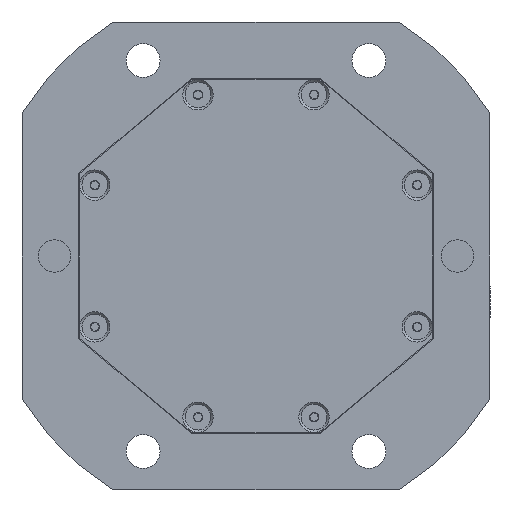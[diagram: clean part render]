
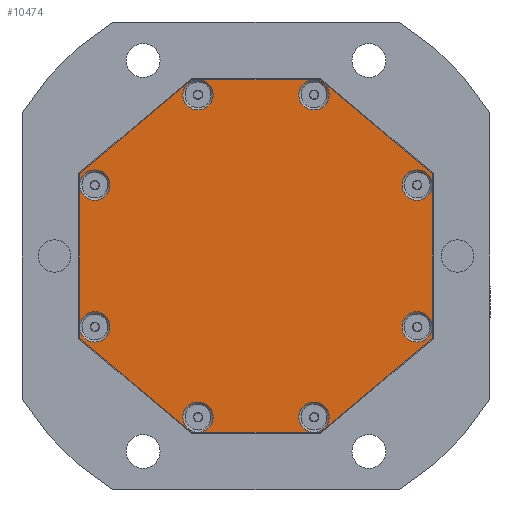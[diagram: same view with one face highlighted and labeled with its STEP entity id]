
A CAD part, front view. The second image highlights one B-rep face of the part: STEP entity #10474.
In plain terms, the highlighted planar face has unit normal (0, -1, 0).
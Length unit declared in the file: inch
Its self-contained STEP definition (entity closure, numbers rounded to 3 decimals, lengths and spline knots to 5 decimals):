
#64 = VECTOR ( 'NONE', #2117, 39.37008 ) ;
#163 = ORIENTED_EDGE ( 'NONE', *, *, #9227, .F. ) ;
#193 = ORIENTED_EDGE ( 'NONE', *, *, #1696, .F. ) ;
#288 = VERTEX_POINT ( 'NONE', #513 ) ;
#457 = EDGE_CURVE ( 'NONE', #1323, #1323, #11076, .T. ) ;
#513 = CARTESIAN_POINT ( 'NONE',  ( 2.15551, 0., 1.00513 ) ) ;
#574 = EDGE_LOOP ( 'NONE', ( #6199 ) ) ;
#613 = VECTOR ( 'NONE', #3594, 39.37008 ) ;
#733 = DIRECTION ( 'NONE',  ( 0., -1., 0. ) ) ;
#758 = LINE ( 'NONE', #6602, #7274 ) ;
#777 = CARTESIAN_POINT ( 'NONE',  ( -2.15551, 0., -1.00513 ) ) ;
#789 = ORIENTED_EDGE ( 'NONE', *, *, #9103, .F. ) ;
#1073 = DIRECTION ( 'NONE',  ( 0., 0., -1. ) ) ;
#1079 = ORIENTED_EDGE ( 'NONE', *, *, #9960, .F. ) ;
#1144 = EDGE_CURVE ( 'NONE', #5461, #7056, #7135, .T. ) ;
#1225 = AXIS2_PLACEMENT_3D ( 'NONE', #10198, #4131, #3296 ) ;
#1232 = CARTESIAN_POINT ( 'NONE',  ( -1.9685, 0., 0.86614 ) ) ;
#1323 = VERTEX_POINT ( 'NONE', #3918 ) ;
#1457 = VECTOR ( 'NONE', #3112, 39.37008 ) ;
#1469 = VECTOR ( 'NONE', #6082, 39.37008 ) ;
#1473 = EDGE_LOOP ( 'NONE', ( #9694 ) ) ;
#1498 = CARTESIAN_POINT ( 'NONE',  ( -2.15551, 0., 1.00513 ) ) ;
#1531 = ORIENTED_EDGE ( 'NONE', *, *, #9417, .F. ) ;
#1638 = ORIENTED_EDGE ( 'NONE', *, *, #7364, .F. ) ;
#1696 = EDGE_CURVE ( 'NONE', #10480, #10480, #2736, .T. ) ;
#1784 = CARTESIAN_POINT ( 'NONE',  ( 0.78454, 0., 2.15551 ) ) ;
#1954 = CARTESIAN_POINT ( 'NONE',  ( 0.78454, 0., -2.15551 ) ) ;
#2054 = EDGE_CURVE ( 'NONE', #9365, #2717, #3278, .T. ) ;
#2117 = DIRECTION ( 'NONE',  ( -1., 0., 0. ) ) ;
#2341 = EDGE_LOOP ( 'NONE', ( #3759 ) ) ;
#2360 = FACE_BOUND ( 'NONE', #7747, .T. ) ;
#2507 = AXIS2_PLACEMENT_3D ( 'NONE', #5059, #9377, #3262 ) ;
#2542 = CARTESIAN_POINT ( 'NONE',  ( 1.9685, 0., 0.86614 ) ) ;
#2550 = CARTESIAN_POINT ( 'NONE',  ( 1.9685, 0., -0.86614 ) ) ;
#2628 = CARTESIAN_POINT ( 'NONE',  ( -1.9685, 0., -0.86614 ) ) ;
#2717 = VERTEX_POINT ( 'NONE', #1954 ) ;
#2736 = CIRCLE ( 'NONE', #4181, 0.18504 ) ;
#2812 = CARTESIAN_POINT ( 'NONE',  ( -2.15551, 0., 1.00513 ) ) ;
#3112 = DIRECTION ( 'NONE',  ( -0.766, 0., -0.643 ) ) ;
#3138 = EDGE_LOOP ( 'NONE', ( #8845 ) ) ;
#3262 = DIRECTION ( 'NONE',  ( 0., 0., -1. ) ) ;
#3278 = LINE ( 'NONE', #10065, #1457 ) ;
#3296 = DIRECTION ( 'NONE',  ( 0., 0., -1. ) ) ;
#3498 = EDGE_CURVE ( 'NONE', #8956, #5461, #3734, .T. ) ;
#3584 = DIRECTION ( 'NONE',  ( 0., 0., -1. ) ) ;
#3594 = DIRECTION ( 'NONE',  ( 0.766, 0., -0.643 ) ) ;
#3734 = LINE ( 'NONE', #9742, #10090 ) ;
#3759 = ORIENTED_EDGE ( 'NONE', *, *, #10099, .F. ) ;
#3793 = VERTEX_POINT ( 'NONE', #7993 ) ;
#3918 = CARTESIAN_POINT ( 'NONE',  ( 1.9685, 0., -1.05118 ) ) ;
#3948 = CIRCLE ( 'NONE', #2507, 0.18504 ) ;
#3964 = VERTEX_POINT ( 'NONE', #9006 ) ;
#4131 = DIRECTION ( 'NONE',  ( 0., -1., 0. ) ) ;
#4151 = AXIS2_PLACEMENT_3D ( 'NONE', #2542, #733, #5881 ) ;
#4181 = AXIS2_PLACEMENT_3D ( 'NONE', #8292, #5625, #4657 ) ;
#4210 = AXIS2_PLACEMENT_3D ( 'NONE', #1232, #7078, #1073 ) ;
#4235 = FACE_BOUND ( 'NONE', #3138, .T. ) ;
#4346 = EDGE_LOOP ( 'NONE', ( #10524 ) ) ;
#4356 = DIRECTION ( 'NONE',  ( 0., 0., -1. ) ) ;
#4372 = CARTESIAN_POINT ( 'NONE',  ( 0.70866, 0., -2.15354 ) ) ;
#4445 = EDGE_CURVE ( 'NONE', #3793, #3793, #10951, .T. ) ;
#4607 = LINE ( 'NONE', #9823, #64 ) ;
#4657 = DIRECTION ( 'NONE',  ( 0., 0., -1. ) ) ;
#4691 = DIRECTION ( 'NONE',  ( 0., 0., 1. ) ) ;
#4860 = EDGE_LOOP ( 'NONE', ( #1638 ) ) ;
#5059 = CARTESIAN_POINT ( 'NONE',  ( 0.70866, 0., -1.9685 ) ) ;
#5234 = CARTESIAN_POINT ( 'NONE',  ( 0.78454, 0., 2.15551 ) ) ;
#5258 = DIRECTION ( 'NONE',  ( 0., -1., 0. ) ) ;
#5283 = CIRCLE ( 'NONE', #5828, 0.18504 ) ;
#5461 = VERTEX_POINT ( 'NONE', #1498 ) ;
#5482 = AXIS2_PLACEMENT_3D ( 'NONE', #2550, #5258, #4356 ) ;
#5487 = VECTOR ( 'NONE', #10790, 39.37008 ) ;
#5586 = ORIENTED_EDGE ( 'NONE', *, *, #1144, .F. ) ;
#5602 = ORIENTED_EDGE ( 'NONE', *, *, #2054, .F. ) ;
#5625 = DIRECTION ( 'NONE',  ( 0., -1., 0. ) ) ;
#5816 = FACE_BOUND ( 'NONE', #9633, .T. ) ;
#5828 = AXIS2_PLACEMENT_3D ( 'NONE', #6971, #7645, #7867 ) ;
#5881 = DIRECTION ( 'NONE',  ( 0., 0., -1. ) ) ;
#5889 = EDGE_CURVE ( 'NONE', #7692, #7692, #10807, .T. ) ;
#5928 = FACE_OUTER_BOUND ( 'NONE', #8430, .T. ) ;
#6070 = VERTEX_POINT ( 'NONE', #4372 ) ;
#6082 = DIRECTION ( 'NONE',  ( 1., 0., 0. ) ) ;
#6199 = ORIENTED_EDGE ( 'NONE', *, *, #457, .F. ) ;
#6382 = CIRCLE ( 'NONE', #4210, 0.18504 ) ;
#6564 = VECTOR ( 'NONE', #8045, 39.37008 ) ;
#6602 = CARTESIAN_POINT ( 'NONE',  ( 2.15551, 0., 1.00513 ) ) ;
#6613 = CARTESIAN_POINT ( 'NONE',  ( -0.78454, 0., -2.15551 ) ) ;
#6635 = CARTESIAN_POINT ( 'NONE',  ( -1.9685, 0., 0.6811 ) ) ;
#6720 = EDGE_CURVE ( 'NONE', #7056, #9100, #8801, .T. ) ;
#6794 = FACE_BOUND ( 'NONE', #2341, .T. ) ;
#6821 = CARTESIAN_POINT ( 'NONE',  ( 0.70866, 0., 1.78346 ) ) ;
#6845 = DIRECTION ( 'NONE',  ( 0., 0., 1. ) ) ;
#6971 = CARTESIAN_POINT ( 'NONE',  ( -0.70866, 0., -1.9685 ) ) ;
#7056 = VERTEX_POINT ( 'NONE', #8679 ) ;
#7067 = VERTEX_POINT ( 'NONE', #10504 ) ;
#7078 = DIRECTION ( 'NONE',  ( 0., -1., 0. ) ) ;
#7086 = CARTESIAN_POINT ( 'NONE',  ( -0.78454, 0., -2.15551 ) ) ;
#7135 = LINE ( 'NONE', #2812, #5487 ) ;
#7274 = VECTOR ( 'NONE', #11115, 39.37008 ) ;
#7364 = EDGE_CURVE ( 'NONE', #7067, #7067, #8141, .T. ) ;
#7527 = FACE_BOUND ( 'NONE', #1473, .T. ) ;
#7533 = AXIS2_PLACEMENT_3D ( 'NONE', #2628, #8745, #3584 ) ;
#7645 = DIRECTION ( 'NONE',  ( 0., -1., 0. ) ) ;
#7680 = EDGE_CURVE ( 'NONE', #6070, #6070, #3948, .T. ) ;
#7692 = VERTEX_POINT ( 'NONE', #11134 ) ;
#7701 = VERTEX_POINT ( 'NONE', #6613 ) ;
#7738 = LINE ( 'NONE', #5234, #613 ) ;
#7747 = EDGE_LOOP ( 'NONE', ( #7779 ) ) ;
#7779 = ORIENTED_EDGE ( 'NONE', *, *, #5889, .F. ) ;
#7867 = DIRECTION ( 'NONE',  ( 0., 0., -1. ) ) ;
#7899 = CARTESIAN_POINT ( 'NONE',  ( -0.78454, 0., 2.15551 ) ) ;
#7993 = CARTESIAN_POINT ( 'NONE',  ( -1.9685, 0., -1.05118 ) ) ;
#8045 = DIRECTION ( 'NONE',  ( -0.766, 0., 0.643 ) ) ;
#8141 = CIRCLE ( 'NONE', #4151, 0.18504 ) ;
#8291 = CARTESIAN_POINT ( 'NONE',  ( 2.15551, 0., -1.00513 ) ) ;
#8292 = CARTESIAN_POINT ( 'NONE',  ( 0.70866, 0., 1.9685 ) ) ;
#8293 = ORIENTED_EDGE ( 'NONE', *, *, #6720, .F. ) ;
#8430 = EDGE_LOOP ( 'NONE', ( #5602, #1531, #789, #8293, #5586, #10548, #1079, #163 ) ) ;
#8679 = CARTESIAN_POINT ( 'NONE',  ( -0.78454, 0., 2.15551 ) ) ;
#8745 = DIRECTION ( 'NONE',  ( 0., -1., 0. ) ) ;
#8801 = LINE ( 'NONE', #7899, #1469 ) ;
#8845 = ORIENTED_EDGE ( 'NONE', *, *, #4445, .F. ) ;
#8956 = VERTEX_POINT ( 'NONE', #777 ) ;
#9006 = CARTESIAN_POINT ( 'NONE',  ( -0.70866, 0., -2.15354 ) ) ;
#9100 = VERTEX_POINT ( 'NONE', #1784 ) ;
#9103 = EDGE_CURVE ( 'NONE', #9100, #288, #7738, .T. ) ;
#9227 = EDGE_CURVE ( 'NONE', #2717, #7701, #4607, .T. ) ;
#9274 = DIRECTION ( 'NONE',  ( 0., 1., 0. ) ) ;
#9365 = VERTEX_POINT ( 'NONE', #8291 ) ;
#9377 = DIRECTION ( 'NONE',  ( 0., -1., 0. ) ) ;
#9386 = CARTESIAN_POINT ( 'NONE',  ( 0., 0., 0. ) ) ;
#9417 = EDGE_CURVE ( 'NONE', #288, #9365, #758, .T. ) ;
#9456 = AXIS2_PLACEMENT_3D ( 'NONE', #9386, #9274, #6845 ) ;
#9633 = EDGE_LOOP ( 'NONE', ( #193 ) ) ;
#9694 = ORIENTED_EDGE ( 'NONE', *, *, #10203, .F. ) ;
#9740 = LINE ( 'NONE', #7086, #6564 ) ;
#9742 = CARTESIAN_POINT ( 'NONE',  ( -2.15551, 0., -1.00513 ) ) ;
#9823 = CARTESIAN_POINT ( 'NONE',  ( 0.78454, 0., -2.15551 ) ) ;
#9960 = EDGE_CURVE ( 'NONE', #7701, #8956, #9740, .T. ) ;
#10065 = CARTESIAN_POINT ( 'NONE',  ( 2.15551, 0., -1.00513 ) ) ;
#10090 = VECTOR ( 'NONE', #4691, 39.37008 ) ;
#10099 = EDGE_CURVE ( 'NONE', #3964, #3964, #5283, .T. ) ;
#10198 = CARTESIAN_POINT ( 'NONE',  ( -0.70866, 0., 1.9685 ) ) ;
#10203 = EDGE_CURVE ( 'NONE', #10930, #10930, #6382, .T. ) ;
#10230 = FACE_BOUND ( 'NONE', #4860, .T. ) ;
#10283 = FACE_BOUND ( 'NONE', #4346, .T. ) ;
#10474 = ADVANCED_FACE ( 'NONE', ( #10283, #11083, #4235, #6794, #2360, #7527, #10230, #5816, #5928 ), #11137, .F. ) ;
#10480 = VERTEX_POINT ( 'NONE', #6821 ) ;
#10504 = CARTESIAN_POINT ( 'NONE',  ( 1.9685, 0., 0.6811 ) ) ;
#10524 = ORIENTED_EDGE ( 'NONE', *, *, #7680, .F. ) ;
#10548 = ORIENTED_EDGE ( 'NONE', *, *, #3498, .F. ) ;
#10790 = DIRECTION ( 'NONE',  ( 0.766, 0., 0.643 ) ) ;
#10807 = CIRCLE ( 'NONE', #1225, 0.18504 ) ;
#10930 = VERTEX_POINT ( 'NONE', #6635 ) ;
#10951 = CIRCLE ( 'NONE', #7533, 0.18504 ) ;
#11076 = CIRCLE ( 'NONE', #5482, 0.18504 ) ;
#11083 = FACE_BOUND ( 'NONE', #574, .T. ) ;
#11115 = DIRECTION ( 'NONE',  ( 0., 0., -1. ) ) ;
#11134 = CARTESIAN_POINT ( 'NONE',  ( -0.70866, 0., 1.78346 ) ) ;
#11137 = PLANE ( 'NONE',  #9456 ) ;
